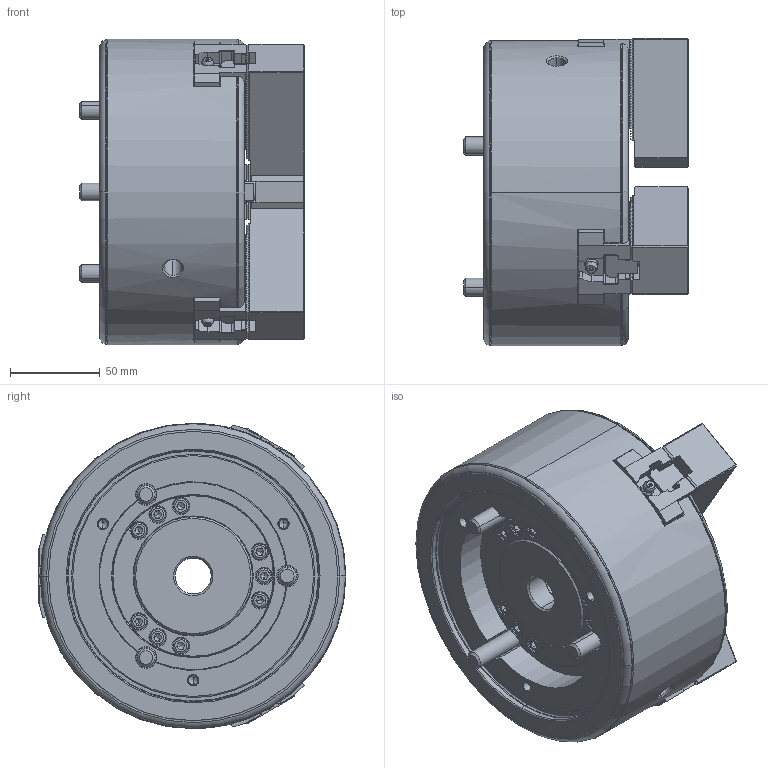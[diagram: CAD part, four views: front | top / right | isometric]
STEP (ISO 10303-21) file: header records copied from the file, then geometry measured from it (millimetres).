
FILE_DESCRIPTION (( 'STEP AP203' ), '1' );
FILE_NAME ('DEV-BR06-UC.STEP', '2024-03-06T04:33:59', ( '' ), ( '' ), 'SwSTEP 2.0', 'SolidWorks 2022', '' );
FILE_SCHEMA (( 'CONFIG_CONTROL_DESIGN' ));
Length unit declared in the file: millimetre
Products named in the file (9): 61P302540-2 SB06B1 ソフトジョー_SB06B1-ﾃﾞﾌｫﾙﾄ(外観用); Bアナツキ M10×80; BR06-Nishi05 Plus-Tナット_61P447483-1 BB206 Tﾅｯﾄ-ﾃﾞﾌｫﾙﾄ; Part48^DEV-BR06-クミタテ; Bアナツキ M10×25; Bアナツキボタン M5×10_デフォルト; 61P367002-1 BB206 カバー; DEV-BR06-UC; BR06-Nishi07 ドローナット(ｸﾘｯｸｽﾄｯﾌﾟ穴変更)_ﾃﾞﾌｫﾙﾄ(外観用)
Assembly tree (21 placements, depth 2):
  DEV-BR06-UC
    BR06-Nishi07 ドローナット(ｸﾘｯｸｽﾄｯﾌﾟ穴変更)_ﾃﾞﾌｫﾙﾄ(外観用)
    61P302540-2 SB06B1 ソフトジョー_SB06B1-ﾃﾞﾌｫﾙﾄ(外観用)  x3
    BR06-Nishi05 Plus-Tナット_61P447483-1 BB206 Tﾅｯﾄ-ﾃﾞﾌｫﾙﾄ  x3
    61P367002-1 BB206 カバー
    Bアナツキ M10×25  x6
    Bアナツキボタン M5×10_デフォルト  x3
    Bアナツキ M10×80  x3
    Part48^DEV-BR06-クミタテ
Bounding box: 125.2 x 171.3 x 170 mm (x, y, z)
Volume: 1683303 mm3; surface area: 245500.4 mm2
Topology: 21 solids, 48 shells, 3600 faces, 9578 edges, 6127 vertices
Faces by surface type: plane 2477, cylinder 474, cone 366, bspline 150, torus 121, sphere 12
Entity records: 90110 total; most frequent: CARTESIAN_POINT 22350, ORIENTED_EDGE 14286, DIRECTION 13016, EDGE_CURVE 7143, VECTOR 5168, LINE 5168, VERTEX_POINT 4613, AXIS2_PLACEMENT_3D 3924
